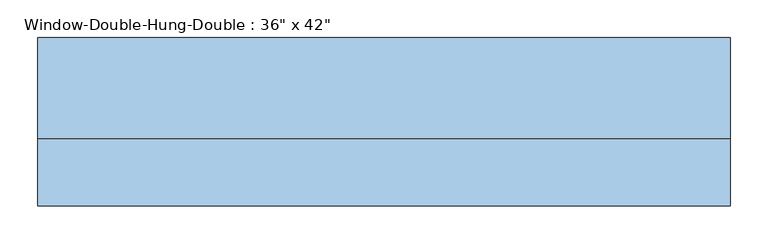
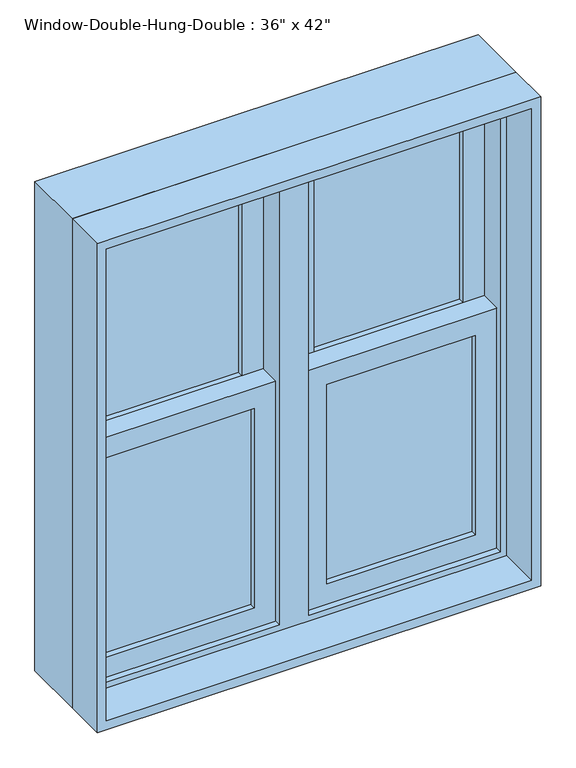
"""IFC4 building model written with IfcOpenShell, lengths in millimetres: window geometry."""

from ifc_helpers import new_model, si_unit, frame, origin, place, context, project, spatial, polyline, outline, extrude, source, transform, mapped, element, save


def window_33dcdc19(model_context):
    return source(origin(), model_context, "Body", "SweptSolid", [
        extrude(outline(polyline([(1981.2, 457.2), (1981.2, -457.2), (914.4, -457.2), (914.4, 457.2), (1981.2, 457.2)]), holes=[polyline([(946.15, -425.45), (1949.45, -425.45), (1949.45, -30.1625), (946.15, -30.1625), (946.15, -425.45)]), polyline([(946.15, 425.45), (946.15, 30.1625), (1949.45, 30.1625), (1949.45, 425.45), (946.15, 425.45)])]), frame((0.0, -12.7, 0.0), z_axis=(0.0, 1.0, 0.0), x_axis=(0.0, 0.0, 1.0)), (0.0, 0.0, 1.0), 133.35),
        extrude(outline(polyline([(-381.0, 31.75), (-74.6125, 31.75), (-74.6125, 25.4), (-381.0, 25.4), (-381.0, 31.75)])), frame((0.0, 0.0, 990.6), z_axis=(0.0, 0.0, 1.0), x_axis=(1.0, 0.0, 0.0)), (0.0, 0.0, 1.0), 434.975),
        extrude(outline(polyline([(-74.6125, 19.05), (-74.6125, 12.7), (-381.0, 12.7), (-381.0, 19.05), (-74.6125, 19.05)])), frame((0.0, 0.0, 990.6), z_axis=(0.0, 0.0, 1.0), x_axis=(1.0, 0.0, 0.0)), (0.0, 0.0, 1.0), 434.975),
        extrude(outline(polyline([(-381.0, 76.2), (-74.6125, 76.2), (-74.6125, 69.85), (-381.0, 69.85), (-381.0, 76.2)])), frame((0.0, 0.0, 1470.025), z_axis=(0.0, 0.0, 1.0), x_axis=(1.0, 0.0, 0.0)), (0.0, 0.0, 1.0), 434.975),
        extrude(outline(polyline([(-74.6125, 63.5), (-74.6125, 57.15), (-381.0, 57.15), (-381.0, 63.5), (-74.6125, 63.5)])), frame((0.0, 0.0, 1470.025), z_axis=(0.0, 0.0, 1.0), x_axis=(1.0, 0.0, 0.0)), (0.0, 0.0, 1.0), 434.975),
        extrude(outline(polyline([(1470.025, -425.45), (946.15, -425.45), (946.15, -30.1625), (1470.025, -30.1625), (1470.025, -425.45)]), holes=[polyline([(1425.575, -74.6125), (990.6, -74.6125), (990.6, -381.0), (1425.575, -381.0), (1425.575, -74.6125)])]), frame((0.0, 0.0, 0.0), z_axis=(0.0, 1.0, 0.0), x_axis=(0.0, 0.0, 1.0)), (0.0, 0.0, 1.0), 44.45),
        extrude(outline(polyline([(1949.45, -425.45), (1425.575, -425.45), (1425.575, -30.1625), (1949.45, -30.1625), (1949.45, -425.45)]), holes=[polyline([(1905.0, -74.6125), (1470.025, -74.6125), (1470.025, -381.0), (1905.0, -381.0), (1905.0, -74.6125)])]), frame((0.0, 44.45, 0.0), z_axis=(0.0, 1.0, 0.0), x_axis=(0.0, 0.0, 1.0)), (0.0, 0.0, 1.0), 44.45),
        extrude(outline(polyline([(381.0, 31.75), (381.0, 25.4), (74.6125, 25.4), (74.6125, 31.75), (381.0, 31.75)])), frame((0.0, 0.0, 990.6), z_axis=(0.0, 0.0, 1.0), x_axis=(1.0, 0.0, 0.0)), (0.0, 0.0, 1.0), 434.975),
        extrude(outline(polyline([(74.6125, 19.05), (381.0, 19.05), (381.0, 12.7), (74.6125, 12.7), (74.6125, 19.05)])), frame((0.0, 0.0, 990.6), z_axis=(0.0, 0.0, 1.0), x_axis=(1.0, 0.0, 0.0)), (0.0, 0.0, 1.0), 434.975),
        extrude(outline(polyline([(381.0, 76.2), (381.0, 69.85), (74.6125, 69.85), (74.6125, 76.2), (381.0, 76.2)])), frame((0.0, 0.0, 1470.025), z_axis=(0.0, 0.0, 1.0), x_axis=(1.0, 0.0, 0.0)), (0.0, 0.0, 1.0), 434.975),
        extrude(outline(polyline([(74.6125, 63.5), (381.0, 63.5), (381.0, 57.15), (74.6125, 57.15), (74.6125, 63.5)])), frame((0.0, 0.0, 1470.025), z_axis=(0.0, 0.0, 1.0), x_axis=(1.0, 0.0, 0.0)), (0.0, 0.0, 1.0), 434.975),
        extrude(outline(polyline([(1470.025, 30.1625), (946.15, 30.1625), (946.15, 425.45), (1470.025, 425.45), (1470.025, 30.1625)]), holes=[polyline([(1425.575, 381.0), (990.6, 381.0), (990.6, 74.6125), (1425.575, 74.6125), (1425.575, 381.0)])]), frame((0.0, 0.0, 0.0), z_axis=(0.0, 1.0, 0.0), x_axis=(0.0, 0.0, 1.0)), (0.0, 0.0, 1.0), 44.45),
        extrude(outline(polyline([(1949.45, 30.1625), (1425.575, 30.1625), (1425.575, 425.45), (1949.45, 425.45), (1949.45, 30.1625)]), holes=[polyline([(1905.0, 381.0), (1470.025, 381.0), (1470.025, 74.6125), (1905.0, 74.6125), (1905.0, 381.0)])]), frame((0.0, 44.45, 0.0), z_axis=(0.0, 1.0, 0.0), x_axis=(0.0, 0.0, 1.0)), (0.0, 0.0, 1.0), 44.45),
        extrude(outline(polyline([(1981.2, 457.2), (1981.2, -457.2), (914.4, -457.2), (914.4, 457.2), (1981.2, 457.2)]), holes=[polyline([(1962.15, 438.15), (933.45, 438.15), (933.45, -438.15), (1962.15, -438.15), (1962.15, 438.15)])]), frame((0.0, -101.6, 0.0), z_axis=(0.0, 1.0, 0.0), x_axis=(0.0, 0.0, 1.0)), (0.0, 0.0, 1.0), 88.9),
    ])


if __name__ == "__main__":
    model = new_model("IFC4")
    model_context = context("Model", 3, world=origin())
    ifc_project = project(units=[si_unit("LENGTHUNIT", "METRE", prefix="MILLI")], contexts=[model_context])
    site = spatial("IfcSite", under=ifc_project)
    building = spatial("IfcBuilding", under=site)
    placement = place(None, origin())
    window_shape = window_33dcdc19(model_context)
    element("IfcWindow", 1, ObjectType="Window-Double-Hung-Double : 36\" x 42\"", at=placement, inside=building, context=model_context, shape_type="MappedRepresentation", body=[
        mapped(window_shape, transform((0.0, 0.0, 0.0), x_axis=(1.0, 0.0, 0.0), y_axis=(0.0, 1.0, 0.0), z_axis=(0.0, 0.0, 1.0))),
    ])
    save(model, "model.ifc")
